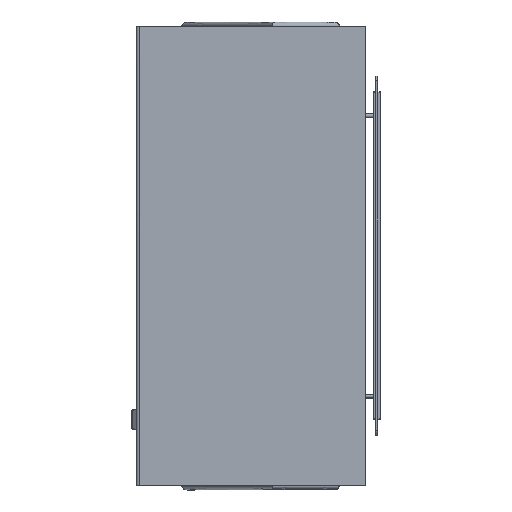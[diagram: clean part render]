
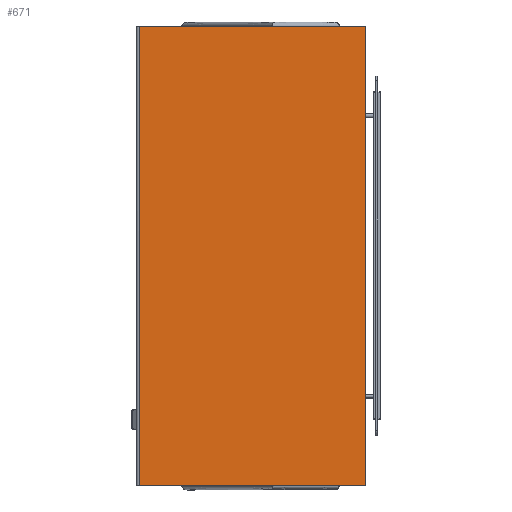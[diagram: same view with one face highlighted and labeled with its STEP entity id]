
A CAD part, top view. The second image highlights one B-rep face of the part: STEP entity #671.
In plain terms, the highlighted planar face has unit normal (0, 0, 1).
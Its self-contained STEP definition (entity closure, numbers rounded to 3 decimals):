
#671=ADVANCED_FACE('',(#3117),#38228,.T.);
#3117=FACE_OUTER_BOUND('',#5571,.T.);
#5571=EDGE_LOOP('',(#8537,#8538,#8539,#8540));
#8537=ORIENTED_EDGE('',*,*,#20610,.T.);
#8538=ORIENTED_EDGE('',*,*,#20599,.F.);
#8539=ORIENTED_EDGE('',*,*,#20603,.T.);
#8540=ORIENTED_EDGE('',*,*,#20608,.T.);
#20599=EDGE_CURVE('',#32919,#32920,#29255,.T.);
#20603=EDGE_CURVE('',#32919,#32923,#29257,.T.);
#20608=EDGE_CURVE('',#32923,#32926,#29262,.T.);
#20610=EDGE_CURVE('',#32926,#32920,#29264,.T.);
#29255=B_SPLINE_CURVE_WITH_KNOTS('',1,(#42317,#42318),.UNSPECIFIED.,.F.,
 .F.,(2,2),(0.,1524.),.UNSPECIFIED.);
#29257=B_SPLINE_CURVE_WITH_KNOTS('',1,(#42331,#42332),.UNSPECIFIED.,.F.,
 .F.,(2,2),(-752.5,0.),.UNSPECIFIED.);
#29262=B_SPLINE_CURVE_WITH_KNOTS('',1,(#42341,#42342),.UNSPECIFIED.,.F.,
 .F.,(2,2),(-1524.,0.),.UNSPECIFIED.);
#29264=B_SPLINE_CURVE_WITH_KNOTS('',1,(#42345,#42346),.UNSPECIFIED.,.F.,
 .F.,(2,2),(-752.5,0.),.UNSPECIFIED.);
#32919=VERTEX_POINT('',#42309);
#32920=VERTEX_POINT('',#42310);
#32923=VERTEX_POINT('',#42313);
#32926=VERTEX_POINT('',#42316);
#38228=PLANE('',#39072);
#39072=AXIS2_PLACEMENT_3D('',#42307,#39900,$);
#39900=DIRECTION('',(0.,0.,1.));
#42307=CARTESIAN_POINT('',(225.25,1581.936,133.692));
#42309=CARTESIAN_POINT('',(-602.5,-94.464,133.692));
#42310=CARTESIAN_POINT('',(-602.5,1429.536,133.692));
#42313=CARTESIAN_POINT('',(150.,-94.464,133.692));
#42316=CARTESIAN_POINT('',(150.,1429.536,133.692));
#42317=CARTESIAN_POINT('',(-602.5,-94.464,133.692));
#42318=CARTESIAN_POINT('',(-602.5,1429.536,133.692));
#42331=CARTESIAN_POINT('',(-602.5,-94.464,133.692));
#42332=CARTESIAN_POINT('',(150.,-94.464,133.692));
#42341=CARTESIAN_POINT('',(150.,-94.464,133.692));
#42342=CARTESIAN_POINT('',(150.,1429.536,133.692));
#42345=CARTESIAN_POINT('',(150.,1429.536,133.692));
#42346=CARTESIAN_POINT('',(-602.5,1429.536,133.692));
